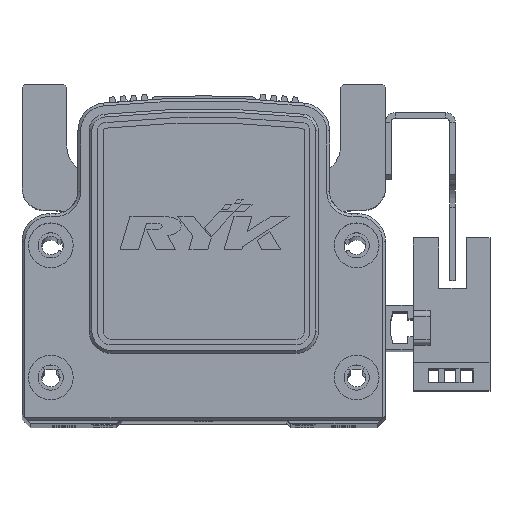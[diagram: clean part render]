
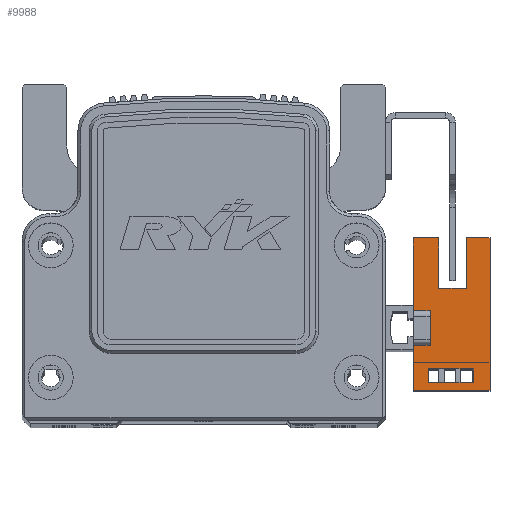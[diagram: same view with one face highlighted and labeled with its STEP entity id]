
A CAD part, top view. The second image highlights one B-rep face of the part: STEP entity #9988.
In plain terms, the highlighted planar face has unit normal (0, 0, 1) as drawn and (1, 0, 0) by its records, which use the part's own axes.
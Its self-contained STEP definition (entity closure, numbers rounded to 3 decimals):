
#1114 = EDGE_LOOP ( 'NONE', ( #35867, #35908, #36006, #35855, #35807, #35972, #35901, #35942, #35820, #35934, #36030, #35875 ) ) ;
#1119 = EDGE_LOOP ( 'NONE', ( #35843, #35811, #35890, #36053 ) ) ;
#2770 = CARTESIAN_POINT ( 'NONE',  ( 3.2, 16.1, -10.7 ) ) ;
#2773 = DIRECTION ( 'NONE',  ( 0., 1., 0. ) ) ;
#2796 = PLANE ( 'NONE',  #30449 ) ;
#2797 = DIRECTION ( 'NONE',  ( 1., 0., 0. ) ) ;
#6782 = VERTEX_POINT ( 'NONE', #14823 ) ;
#6787 = VERTEX_POINT ( 'NONE', #14795 ) ;
#6819 = VERTEX_POINT ( 'NONE', #14903 ) ;
#6824 = VERTEX_POINT ( 'NONE', #14875 ) ;
#6840 = VERTEX_POINT ( 'NONE', #14931 ) ;
#6844 = VERTEX_POINT ( 'NONE', #14935 ) ;
#6845 = VERTEX_POINT ( 'NONE', #14857 ) ;
#6846 = VERTEX_POINT ( 'NONE', #14950 ) ;
#6852 = VERTEX_POINT ( 'NONE', #14918 ) ;
#6856 = VERTEX_POINT ( 'NONE', #15068 ) ;
#6858 = VERTEX_POINT ( 'NONE', #15024 ) ;
#6859 = VERTEX_POINT ( 'NONE', #15028 ) ;
#6860 = VERTEX_POINT ( 'NONE', #14969 ) ;
#6866 = VERTEX_POINT ( 'NONE', #15002 ) ;
#6870 = VERTEX_POINT ( 'NONE', #15042 ) ;
#6887 = VERTEX_POINT ( 'NONE', #15053 ) ;
#8059 = VECTOR ( 'NONE', #24780, 1000. ) ;
#8077 = LINE ( 'NONE', #24748, #8059 ) ;
#8096 = LINE ( 'NONE', #24832, #8117 ) ;
#8103 = LINE ( 'NONE', #24791, #8122 ) ;
#8117 = VECTOR ( 'NONE', #24834, 1000. ) ;
#8122 = VECTOR ( 'NONE', #24798, 1000. ) ;
#8156 = LINE ( 'NONE', #24937, #8157 ) ;
#8157 = VECTOR ( 'NONE', #24921, 1000. ) ;
#9988 = ADVANCED_FACE ( 'NONE', ( #13522, #13487 ), #2796, .T. ) ;
#10546 = LINE ( 'NONE', #24994, #10588 ) ;
#10548 = LINE ( 'NONE', #18911, #10575 ) ;
#10552 = VECTOR ( 'NONE', #25010, 1000. ) ;
#10569 = LINE ( 'NONE', #25005, #10552 ) ;
#10571 = VECTOR ( 'NONE', #25008, 1000. ) ;
#10575 = VECTOR ( 'NONE', #18940, 1000. ) ;
#10578 = LINE ( 'NONE', #25016, #10571 ) ;
#10588 = VECTOR ( 'NONE', #24960, 1000. ) ;
#10605 = VECTOR ( 'NONE', #18951, 1000. ) ;
#10609 = VECTOR ( 'NONE', #18956, 1000. ) ;
#10612 = VECTOR ( 'NONE', #18970, 1000. ) ;
#10617 = LINE ( 'NONE', #18948, #10605 ) ;
#10638 = VECTOR ( 'NONE', #19004, 1000. ) ;
#10641 = LINE ( 'NONE', #18976, #10612 ) ;
#10649 = VECTOR ( 'NONE', #19031, 1000. ) ;
#10652 = LINE ( 'NONE', #18973, #10649 ) ;
#10653 = LINE ( 'NONE', #18971, #10609 ) ;
#10656 = LINE ( 'NONE', #18994, #10638 ) ;
#13092 = EDGE_CURVE ( 'NONE', #6887, #6844, #33472, .T. ) ;
#13103 = EDGE_CURVE ( 'NONE', #6856, #6887, #33486, .T. ) ;
#13104 = EDGE_CURVE ( 'NONE', #6852, #6858, #33488, .T. ) ;
#13487 = FACE_BOUND ( 'NONE', #1119, .T. ) ;
#13522 = FACE_OUTER_BOUND ( 'NONE', #1114, .T. ) ;
#14795 = CARTESIAN_POINT ( 'NONE',  ( 3.2, -3.1, 3. ) ) ;
#14823 = CARTESIAN_POINT ( 'NONE',  ( 3.2, 16.1, -6.5 ) ) ;
#14857 = CARTESIAN_POINT ( 'NONE',  ( 3.2, -7.33, -7.7 ) ) ;
#14875 = CARTESIAN_POINT ( 'NONE',  ( 3.2, 16.1, -10.7 ) ) ;
#14903 = CARTESIAN_POINT ( 'NONE',  ( 3.2, -11.1, 3. ) ) ;
#14918 = CARTESIAN_POINT ( 'NONE',  ( 3.2, 16.1, -1.5 ) ) ;
#14931 = CARTESIAN_POINT ( 'NONE',  ( 3.2, 3.1, 0. ) ) ;
#14935 = CARTESIAN_POINT ( 'NONE',  ( 3.2, -9.83, -7.7 ) ) ;
#14950 = CARTESIAN_POINT ( 'NONE',  ( 3.2, -3.1, 0. ) ) ;
#14969 = CARTESIAN_POINT ( 'NONE',  ( 3.2, 7.1, -6.5 ) ) ;
#15002 = CARTESIAN_POINT ( 'NONE',  ( 3.2, 7.1, -1.5 ) ) ;
#15024 = CARTESIAN_POINT ( 'NONE',  ( 3.2, 16.1, 3. ) ) ;
#15028 = CARTESIAN_POINT ( 'NONE',  ( 3.2, 3.1, 3. ) ) ;
#15042 = CARTESIAN_POINT ( 'NONE',  ( 3.2, -11.1, -10.7 ) ) ;
#15053 = CARTESIAN_POINT ( 'NONE',  ( 3.2, -9.83, 0.3 ) ) ;
#15068 = CARTESIAN_POINT ( 'NONE',  ( 3.2, -7.33, 0.3 ) ) ;
#18911 = CARTESIAN_POINT ( 'NONE',  ( 3.2, -7.33, -10.7 ) ) ;
#18940 = DIRECTION ( 'NONE',  ( 0., 0., 1. ) ) ;
#18948 = CARTESIAN_POINT ( 'NONE',  ( 3.2, 16.1, 3. ) ) ;
#18951 = DIRECTION ( 'NONE',  ( 0., 1., 0. ) ) ;
#18956 = DIRECTION ( 'NONE',  ( 0., -1., 0. ) ) ;
#18970 = DIRECTION ( 'NONE',  ( 0., 1., 0. ) ) ;
#18971 = CARTESIAN_POINT ( 'NONE',  ( 3.2, 25.1, -6.5 ) ) ;
#18973 = CARTESIAN_POINT ( 'NONE',  ( 3.2, 16.1, -10.7 ) ) ;
#18976 = CARTESIAN_POINT ( 'NONE',  ( 3.2, 25.1, -1.5 ) ) ;
#18994 = CARTESIAN_POINT ( 'NONE',  ( 3.2, 16.1, -7.7 ) ) ;
#19004 = DIRECTION ( 'NONE',  ( 0., 1., 0. ) ) ;
#19031 = DIRECTION ( 'NONE',  ( 0., 1., 0. ) ) ;
#20954 = DIRECTION ( 'NONE',  ( 0., 0., -1. ) ) ;
#20959 = CARTESIAN_POINT ( 'NONE',  ( 3.2, -9.83, -10.7 ) ) ;
#20966 = CARTESIAN_POINT ( 'NONE',  ( 3.2, 16.1, 0.3 ) ) ;
#20975 = DIRECTION ( 'NONE',  ( 0., -1., 0. ) ) ;
#20977 = CARTESIAN_POINT ( 'NONE',  ( 3.2, 16.1, -10.7 ) ) ;
#21016 = DIRECTION ( 'NONE',  ( 0., 0., 1. ) ) ;
#24748 = CARTESIAN_POINT ( 'NONE',  ( 3.2, 16.1, -10.7 ) ) ;
#24780 = DIRECTION ( 'NONE',  ( 0., 0., 1. ) ) ;
#24791 = CARTESIAN_POINT ( 'NONE',  ( 3.2, -3.1, 3. ) ) ;
#24798 = DIRECTION ( 'NONE',  ( 0., 0., -1. ) ) ;
#24832 = CARTESIAN_POINT ( 'NONE',  ( 3.2, 3.1, 3. ) ) ;
#24834 = DIRECTION ( 'NONE',  ( 0., 0., 1. ) ) ;
#24921 = DIRECTION ( 'NONE',  ( 0., 1., 0. ) ) ;
#24937 = CARTESIAN_POINT ( 'NONE',  ( 3.2, 0., 0. ) ) ;
#24960 = DIRECTION ( 'NONE',  ( 0., 1., 0. ) ) ;
#24994 = CARTESIAN_POINT ( 'NONE',  ( 3.2, 16.1, 3. ) ) ;
#25005 = CARTESIAN_POINT ( 'NONE',  ( 3.2, -11.1, 3. ) ) ;
#25008 = DIRECTION ( 'NONE',  ( 0., 0., 1. ) ) ;
#25010 = DIRECTION ( 'NONE',  ( 0., 0., 1. ) ) ;
#25016 = CARTESIAN_POINT ( 'NONE',  ( 3.2, 7.1, -6.5 ) ) ;
#28291 = EDGE_CURVE ( 'NONE', #6824, #6782, #8077, .T. ) ;
#28347 = EDGE_CURVE ( 'NONE', #6787, #6846, #8103, .T. ) ;
#28388 = EDGE_CURVE ( 'NONE', #6840, #6859, #8096, .T. ) ;
#28473 = EDGE_CURVE ( 'NONE', #6846, #6840, #8156, .T. ) ;
#28500 = EDGE_CURVE ( 'NONE', #6859, #6858, #10546, .T. ) ;
#28515 = EDGE_CURVE ( 'NONE', #6860, #6866, #10578, .T. ) ;
#28519 = EDGE_CURVE ( 'NONE', #6870, #6819, #10569, .T. ) ;
#28538 = EDGE_CURVE ( 'NONE', #6845, #6856, #10548, .T. ) ;
#28568 = EDGE_CURVE ( 'NONE', #6782, #6860, #10653, .T. ) ;
#28577 = EDGE_CURVE ( 'NONE', #6866, #6852, #10641, .T. ) ;
#28585 = EDGE_CURVE ( 'NONE', #6819, #6787, #10617, .T. ) ;
#28590 = EDGE_CURVE ( 'NONE', #6870, #6824, #10652, .T. ) ;
#28598 = EDGE_CURVE ( 'NONE', #6844, #6845, #10656, .T. ) ;
#30449 = AXIS2_PLACEMENT_3D ( 'NONE', #2770, #2797, #2773 ) ;
#33452 = VECTOR ( 'NONE', #20954, 1000. ) ;
#33465 = VECTOR ( 'NONE', #21016, 1000. ) ;
#33466 = VECTOR ( 'NONE', #20975, 1000. ) ;
#33472 = LINE ( 'NONE', #20959, #33452 ) ;
#33486 = LINE ( 'NONE', #20966, #33466 ) ;
#33488 = LINE ( 'NONE', #20977, #33465 ) ;
#35807 = ORIENTED_EDGE ( 'NONE', *, *, #28500, .F. ) ;
#35811 = ORIENTED_EDGE ( 'NONE', *, *, #28538, .F. ) ;
#35820 = ORIENTED_EDGE ( 'NONE', *, *, #28585, .F. ) ;
#35843 = ORIENTED_EDGE ( 'NONE', *, *, #13103, .F. ) ;
#35855 = ORIENTED_EDGE ( 'NONE', *, *, #13104, .T. ) ;
#35867 = ORIENTED_EDGE ( 'NONE', *, *, #28568, .T. ) ;
#35875 = ORIENTED_EDGE ( 'NONE', *, *, #28291, .T. ) ;
#35890 = ORIENTED_EDGE ( 'NONE', *, *, #28598, .F. ) ;
#35901 = ORIENTED_EDGE ( 'NONE', *, *, #28473, .F. ) ;
#35908 = ORIENTED_EDGE ( 'NONE', *, *, #28515, .T. ) ;
#35934 = ORIENTED_EDGE ( 'NONE', *, *, #28519, .F. ) ;
#35942 = ORIENTED_EDGE ( 'NONE', *, *, #28347, .F. ) ;
#35972 = ORIENTED_EDGE ( 'NONE', *, *, #28388, .F. ) ;
#36006 = ORIENTED_EDGE ( 'NONE', *, *, #28577, .T. ) ;
#36030 = ORIENTED_EDGE ( 'NONE', *, *, #28590, .T. ) ;
#36053 = ORIENTED_EDGE ( 'NONE', *, *, #13092, .F. ) ;
